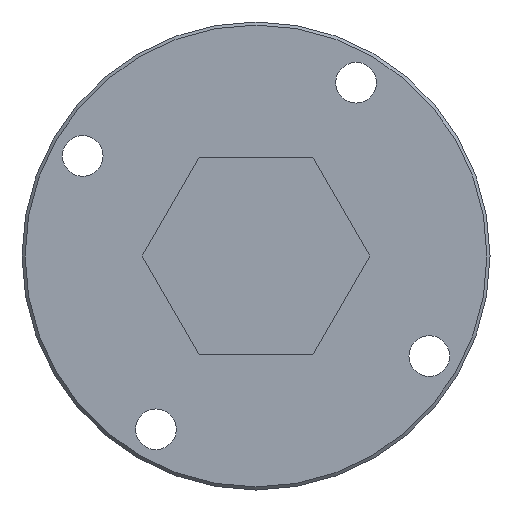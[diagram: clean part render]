
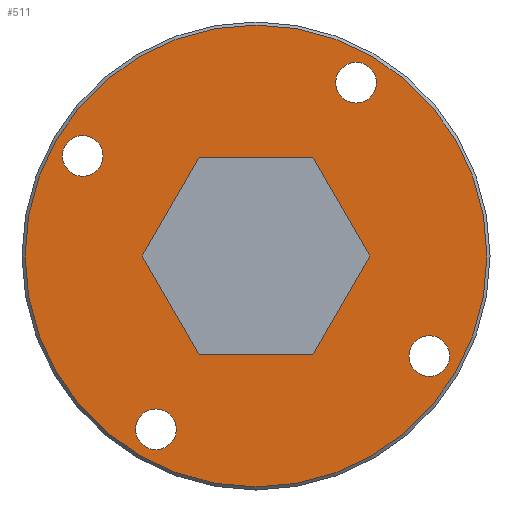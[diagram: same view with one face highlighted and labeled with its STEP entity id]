
A CAD part, left-side view. The second image highlights one B-rep face of the part: STEP entity #511.
In plain terms, the highlighted planar face has unit normal (-1, 0, 0).
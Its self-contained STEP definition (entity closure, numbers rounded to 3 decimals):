
#377=CARTESIAN_POINT('',(115.0,37.5,0.));
#378=VERTEX_POINT('',#377);
#379=CARTESIAN_POINT('',(115.0,0.0,0.0));
#380=DIRECTION('',(1.0,0.0,0.0));
#381=DIRECTION('',(0.0,-1.0,0.0));
#382=AXIS2_PLACEMENT_3D('',#379,#380,#381);
#383=CIRCLE('',#382,37.5);
#384=EDGE_CURVE('',#378,#378,#383,.T.);
#409=CARTESIAN_POINT('',(115.0,0.0,13.5));
#410=DIRECTION('',(-1.0,0.0,0.0));
#411=DIRECTION('',(0.0,0.0,1.0));
#412=AXIS2_PLACEMENT_3D('',#409,#410,#411);
#413=PLANE('',#412);
#414=ORIENTED_EDGE('',*,*,#384,.F.);
#415=EDGE_LOOP('',(#414));
#416=FACE_OUTER_BOUND('',#415,.T.);
#417=CARTESIAN_POINT('',(115.0,-9.238,-16.));
#418=VERTEX_POINT('',#417);
#419=CARTESIAN_POINT('',(115.0,9.238,-16.));
#420=VERTEX_POINT('',#419);
#421=CARTESIAN_POINT('',(115.0,-9.238,-16.));
#422=DIRECTION('',(0.0,1.0,0.0));
#423=VECTOR('',#422,18.475);
#424=LINE('',#421,#423);
#425=EDGE_CURVE('',#418,#420,#424,.T.);
#426=ORIENTED_EDGE('',*,*,#425,.T.);
#427=CARTESIAN_POINT('',(115.0,18.475,0.));
#428=VERTEX_POINT('',#427);
#429=CARTESIAN_POINT('',(115.0,9.238,-16.));
#430=DIRECTION('',(0.0,0.5,0.866));
#431=VECTOR('',#430,18.475);
#432=LINE('',#429,#431);
#433=EDGE_CURVE('',#420,#428,#432,.T.);
#434=ORIENTED_EDGE('',*,*,#433,.T.);
#435=CARTESIAN_POINT('',(115.0,9.238,16.));
#436=VERTEX_POINT('',#435);
#437=CARTESIAN_POINT('',(115.0,18.475,0.));
#438=DIRECTION('',(0.0,-0.5,0.866));
#439=VECTOR('',#438,18.475);
#440=LINE('',#437,#439);
#441=EDGE_CURVE('',#428,#436,#440,.T.);
#442=ORIENTED_EDGE('',*,*,#441,.T.);
#443=CARTESIAN_POINT('',(115.0,-9.238,16.));
#444=VERTEX_POINT('',#443);
#445=CARTESIAN_POINT('',(115.0,9.238,16.));
#446=DIRECTION('',(0.0,-1.0,0.0));
#447=VECTOR('',#446,18.475);
#448=LINE('',#445,#447);
#449=EDGE_CURVE('',#436,#444,#448,.T.);
#450=ORIENTED_EDGE('',*,*,#449,.T.);
#451=CARTESIAN_POINT('',(115.0,-18.475,0.));
#452=VERTEX_POINT('',#451);
#453=CARTESIAN_POINT('',(115.0,-9.238,16.));
#454=DIRECTION('',(0.0,-0.5,-0.866));
#455=VECTOR('',#454,18.475);
#456=LINE('',#453,#455);
#457=EDGE_CURVE('',#444,#452,#456,.T.);
#458=ORIENTED_EDGE('',*,*,#457,.T.);
#459=CARTESIAN_POINT('',(115.0,-18.475,0.));
#460=DIRECTION('',(0.0,0.5,-0.866));
#461=VECTOR('',#460,18.475);
#462=LINE('',#459,#461);
#463=EDGE_CURVE('',#452,#418,#462,.T.);
#464=ORIENTED_EDGE('',*,*,#463,.T.);
#465=EDGE_LOOP('',(#426,#434,#442,#450,#458,#464));
#466=FACE_BOUND('',#465,.T.);
#467=CARTESIAN_POINT('',(115.0,-12.95,28.146));
#468=VERTEX_POINT('',#467);
#469=CARTESIAN_POINT('',(115.0,-16.25,28.146));
#470=DIRECTION('',(1.0,0.0,0.0));
#471=DIRECTION('',(0.0,1.0,0.0));
#472=AXIS2_PLACEMENT_3D('',#469,#470,#471);
#473=CIRCLE('',#472,3.3);
#474=EDGE_CURVE('',#468,#468,#473,.T.);
#475=ORIENTED_EDGE('',*,*,#474,.T.);
#476=EDGE_LOOP('',(#475));
#477=FACE_BOUND('',#476,.T.);
#478=CARTESIAN_POINT('',(115.0,-28.146,-12.95));
#479=VERTEX_POINT('',#478);
#480=CARTESIAN_POINT('',(115.0,-28.146,-16.25));
#481=DIRECTION('',(1.0,0.0,0.0));
#482=DIRECTION('',(0.0,0.0,1.0));
#483=AXIS2_PLACEMENT_3D('',#480,#481,#482);
#484=CIRCLE('',#483,3.3);
#485=EDGE_CURVE('',#479,#479,#484,.T.);
#486=ORIENTED_EDGE('',*,*,#485,.T.);
#487=EDGE_LOOP('',(#486));
#488=FACE_BOUND('',#487,.T.);
#489=CARTESIAN_POINT('',(115.0,12.95,-28.146));
#490=VERTEX_POINT('',#489);
#491=CARTESIAN_POINT('',(115.0,16.25,-28.146));
#492=DIRECTION('',(1.0,0.0,0.0));
#493=DIRECTION('',(0.0,-1.0,0.0));
#494=AXIS2_PLACEMENT_3D('',#491,#492,#493);
#495=CIRCLE('',#494,3.3);
#496=EDGE_CURVE('',#490,#490,#495,.T.);
#497=ORIENTED_EDGE('',*,*,#496,.T.);
#498=EDGE_LOOP('',(#497));
#499=FACE_BOUND('',#498,.T.);
#500=CARTESIAN_POINT('',(115.0,28.146,12.95));
#501=VERTEX_POINT('',#500);
#502=CARTESIAN_POINT('',(115.0,28.146,16.25));
#503=DIRECTION('',(1.0,0.0,0.0));
#504=DIRECTION('',(0.0,0.0,-1.0));
#505=AXIS2_PLACEMENT_3D('',#502,#503,#504);
#506=CIRCLE('',#505,3.3);
#507=EDGE_CURVE('',#501,#501,#506,.T.);
#508=ORIENTED_EDGE('',*,*,#507,.T.);
#509=EDGE_LOOP('',(#508));
#510=FACE_BOUND('',#509,.T.);
#511=ADVANCED_FACE('',(#416,#466,#477,#488,#499,#510),#413,.T.);
